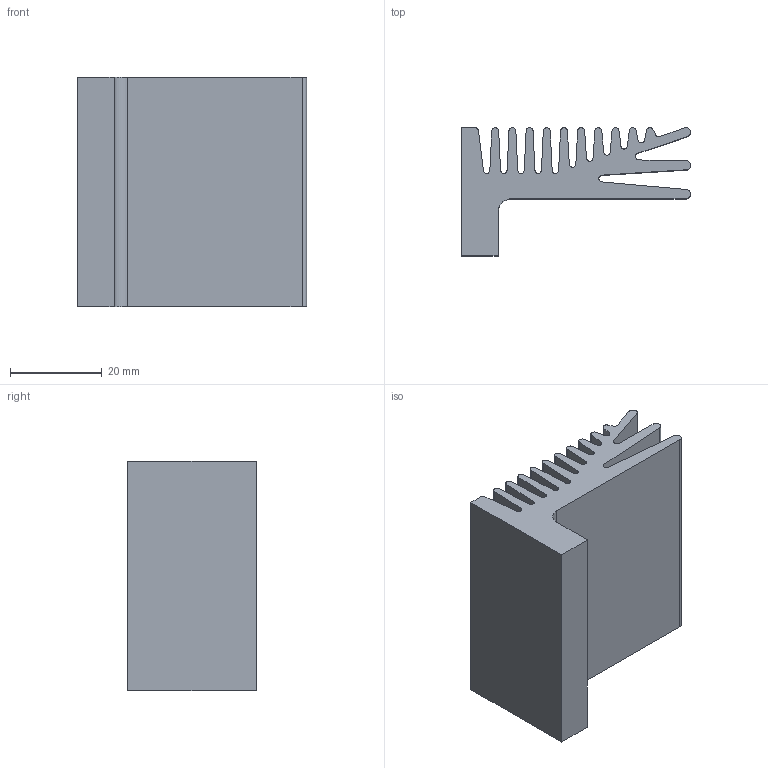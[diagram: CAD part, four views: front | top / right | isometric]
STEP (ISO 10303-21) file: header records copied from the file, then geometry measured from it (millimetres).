
FILE_DESCRIPTION (( 'STEP AP203' ), '1' );
FILE_NAME ('PR 133-50.step', '2002-10-20T23:24:04', ( 'Wolfgang Müller' ), ( 'DPS' ), 'SwSTEP 2.0', 'SolidWorks 2002264', '' );
FILE_SCHEMA (( 'CONFIG_CONTROL_DESIGN' ));
Length unit declared in the file: millimetre
Products named in the file (1): PR 133-50
Bounding box: 50 x 28 x 50 mm (x, y, z)
Volume: 30967.9 mm3; surface area: 18708.1 mm2
Topology: 1 solids, 1 shells, 63 faces, 183 edges, 122 vertices
Faces by surface type: plane 33, cylinder 30
Entity records: 2174 total; most frequent: DIRECTION 371, CARTESIAN_POINT 369, ORIENTED_EDGE 366, EDGE_CURVE 183, AXIS2_PLACEMENT_3D 124, LINE 123, VECTOR 123, VERTEX_POINT 122
